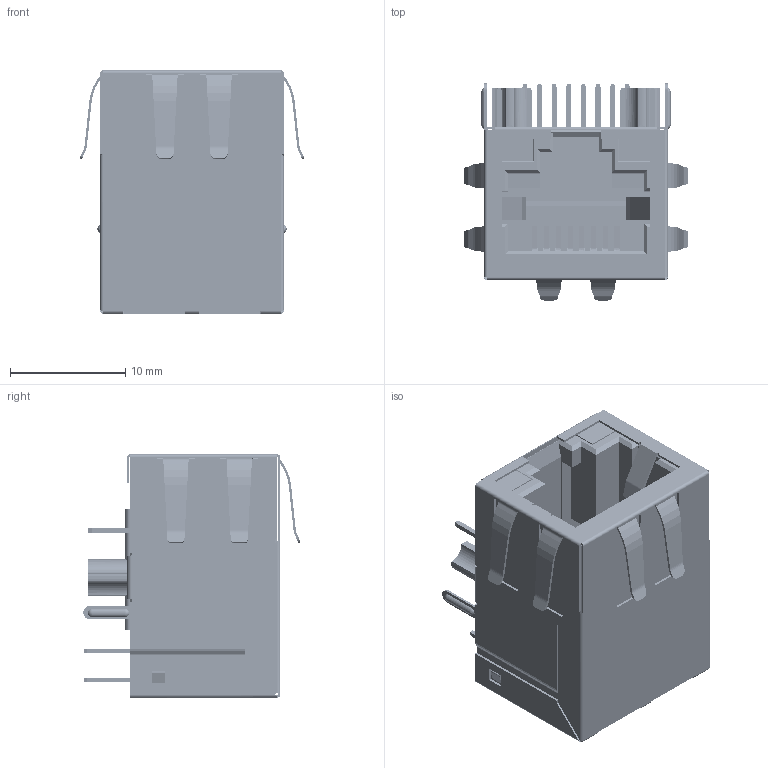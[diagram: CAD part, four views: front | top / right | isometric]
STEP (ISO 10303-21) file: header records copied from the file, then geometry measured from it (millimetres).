
FILE_DESCRIPTION((''),'2;1');
FILE_NAME('4_06_10P_ASM','2019-10-22T',('Administrator'),(''),'PRO/ENGINEER BY PARAMETRIC TECHNOLOGY CORPORATION, 2008380','PRO/ENGINEER BY PARAMETRIC TECHNOLOGY CORPORATION, 2008380','');
FILE_SCHEMA(('CONFIG_CONTROL_DESIGN'));
Length unit declared in the file: millimetre
Products named in the file (34): MANIFOLD_SOLID_BREP_10022; MANIFOLD_SOLID_BREP_10023; MANIFOLD_SOLID_BREP_10024; MANIFOLD_SOLID_BREP_10026; MANIFOLD_SOLID_BREP_10027; MANIFOLD_SOLID_BREP_10028; MANIFOLD_SOLID_BREP_10029; MANIFOLD_SOLID_BREP_10030; MANIFOLD_SOLID_BREP_10031; MANIFOLD_SOLID_BREP_10032; MANIFOLD_SOLID_BREP_10034; MANIFOLD_SOLID_BREP_10035; MANIFOLD_SOLID_BREP_10036; MANIFOLD_SOLID_BREP_10037; MANIFOLD_SOLID_BREP_10038; MANIFOLD_SOLID_BREP_10039; MANIFOLD_SOLID_BREP_10040; JIAZI_04_ASM_ASM; MANIFOLD_SOLID_BREP_10041; MANIFOLD_SOLID_BREP_10042; MANIFOLD_SOLID_BREP_10043; MANIFOLD_SOLID_BREP_10044; CIZHU_ASM_ASM; _DIANLUBAN_04_BODY; DIANLUBAN_04_BODY_ASM_ASM; WAIKE_04_01; TONGKE_04_BODY_ASM_ASM; LED_04_01; LED_04_PART_ASM_ASM; NEIKE_04__06; SULIAOKE_04_BODY_ASM_ASM; ASSEMBLY_04_ASM_ASM; 21_30_ASSEMBLY_3D_ASM_ASM; 4_06_10P_ASM
Assembly tree (35 placements, depth 6):
  4_06_10P_ASM
    21_30_ASSEMBLY_3D_ASM_ASM
      ASSEMBLY_04_ASM_ASM
        JIAZI_04_ASM_ASM
          MANIFOLD_SOLID_BREP_10022
          MANIFOLD_SOLID_BREP_10023
          MANIFOLD_SOLID_BREP_10024
          MANIFOLD_SOLID_BREP_10026
          MANIFOLD_SOLID_BREP_10027
          MANIFOLD_SOLID_BREP_10028
          MANIFOLD_SOLID_BREP_10029
          MANIFOLD_SOLID_BREP_10030
          MANIFOLD_SOLID_BREP_10031
          MANIFOLD_SOLID_BREP_10032
          MANIFOLD_SOLID_BREP_10034
          MANIFOLD_SOLID_BREP_10035
          MANIFOLD_SOLID_BREP_10036
          MANIFOLD_SOLID_BREP_10037
          MANIFOLD_SOLID_BREP_10038
          MANIFOLD_SOLID_BREP_10039
          MANIFOLD_SOLID_BREP_10040
        DIANLUBAN_04_BODY_ASM_ASM
          CIZHU_ASM_ASM  x2
            MANIFOLD_SOLID_BREP_10041
            MANIFOLD_SOLID_BREP_10042
            MANIFOLD_SOLID_BREP_10043
            MANIFOLD_SOLID_BREP_10044
          _DIANLUBAN_04_BODY
        TONGKE_04_BODY_ASM_ASM
          WAIKE_04_01
        LED_04_PART_ASM_ASM
          LED_04_01  x2
        SULIAOKE_04_BODY_ASM_ASM
          NEIKE_04__06
Bounding box: 19.52 x 18.89 x 21.15 mm (x, y, z)
Volume: 2125.7 mm3; surface area: 7751 mm2
Topology: 30 solids, 30 shells, 3932 faces, 10609 edges, 6714 vertices
Faces by surface type: torus 2176, plane 1046, cylinder 658, extrusion 48, sphere 4
Entity records: 89995 total; most frequent: CARTESIAN_POINT 19782, DIRECTION 15948, ORIENTED_EDGE 14380, EDGE_CURVE 7190, AXIS2_PLACEMENT_3D 6303, VERTEX_POINT 4603, CIRCLE 3632, VECTOR 3342
